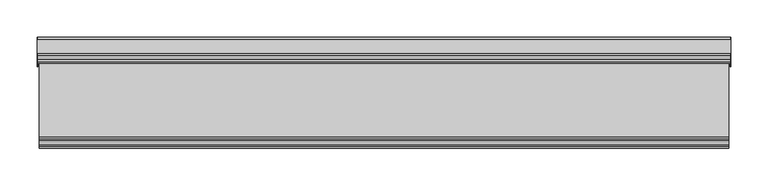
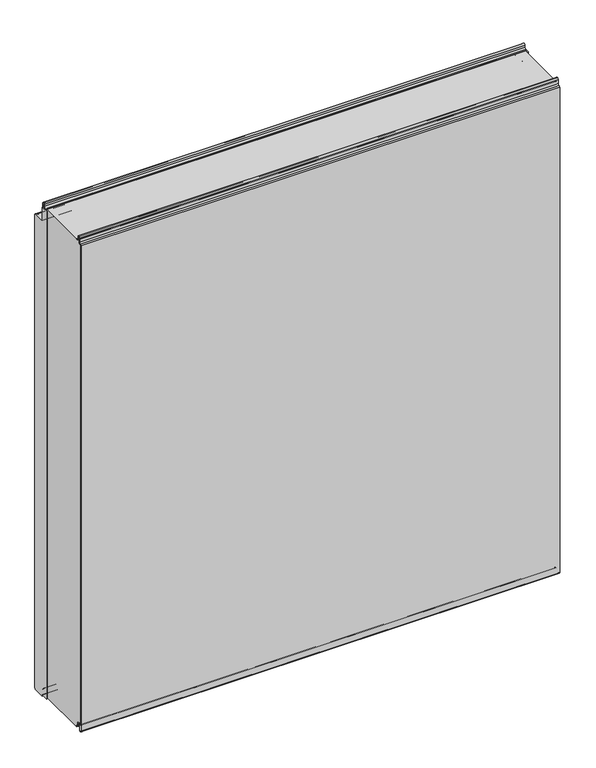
"""IFC4 building model written with IfcOpenShell, lengths in millimetres: plate geometry, Fronttop : Fronttop 150/1000."""

from ifc_helpers import new_model, si_unit, point, frame, frame_2d, origin, place, context, project, spatial, polyline, circle_curve, trimmed, segment, composite_curve, outline, extrude, source, transform, mapped, element, save
from ifc_brep_helpers import plane_surface, cylinder_surface, revolved_surface, advanced_brep


def plate_63f1b3db(model_context):
    return source(origin(), model_context, "Body", "SolidModel", [
        advanced_brep(
        [(-466.5, 124.0, 1008.0), (-466.5, 121.0, 1008.0), (-466.5, 121.0, 1004.0), (-466.5, 117.0, 1000.0), (-466.5, 115.0, 1000.0), (-466.5, 115.0, 1001.0), (-466.5, 117.0, 1001.0), (-466.5, 120.0, 1004.0), (-466.5, 120.0, 1008.0), (-466.5, 125.0, 1008.0), (-466.5, 125.0, 1000.0), (-466.5, 124.0, 1000.0), (466.5, 125.0, 1008.0), (466.5, 120.0, 1008.0), (466.5, 120.0, 1004.0), (466.5, 117.0, 1001.0), (466.5, 115.0, 1001.0), (466.5, 115.0, 1000.0), (466.5, 117.0, 1000.0), (466.5, 121.0, 1004.0), (466.5, 121.0, 1008.0), (466.5, 124.0, 1008.0), (466.5, 124.0, 1000.0), (466.5, 125.0, 1000.0), (-466.5, 117.0, 2.0), (466.5, 117.0, 2.0), (466.5, 115.0, 2.0), (-466.5, 115.0, 2.0), (-466.5, 119.0, 4.0), (466.5, 119.0, 4.0), (-466.5, 119.0, 8.0), (466.5, 119.0, 8.0), (-466.5, 126.0, 8.0), (466.5, 126.0, 8.0), (-466.5, 126.0, 0.0), (466.5, 126.0, 0.0), (-466.5, 129.0, -3.0), (466.5, 129.0, -3.0), (-466.5, 125.0, -3.0), (-467.5, 125.0, -3.0), (-467.5, 147.0, -3.0), (-466.5, 147.0, -3.0), (466.5, 147.0, -3.0), (467.5, 147.0, -3.0), (467.5, 125.0, -3.0), (466.5, 125.0, -3.0), (-466.5, 150.0, 0.0), (466.5, 150.0, 0.0), (-467.5, 150.0, 0.0), (-467.5, 150.0, 969.0), (-466.5, 150.0, 969.0), (466.5, 150.0, 969.0), (467.5, 150.0, 969.0), (467.5, 150.0, 0.0), (-466.5, 147.0, 972.0), (466.5, 147.0, 972.0), (-467.5, 147.0, 972.0), (-467.5, 128.0, 972.0), (-466.5, 128.0, 972.0), (466.5, 128.0, 972.0), (467.5, 128.0, 972.0), (467.5, 147.0, 972.0), (-466.5, 125.0, 975.0), (466.5, 125.0, 975.0), (-467.5, 125.0, 975.0), (-467.5, 125.0, 1000.0), (467.5, 125.0, 1000.0), (467.5, 125.0, 975.0), (-466.5, 124.0, 975.0), (466.5, 124.0, 975.0), (-466.5, 128.0, 971.0), (466.5, 128.0, 971.0), (-466.5, 147.0, 971.0), (466.5, 147.0, 971.0), (-466.5, 149.0, 969.0), (466.5, 149.0, 969.0), (-466.5, 149.0, 0.0), (466.5, 149.0, 0.0), (-466.5, 147.0, -2.0), (466.5, 147.0, -2.0), (-466.5, 129.0, -2.0), (466.5, 129.0, -2.0), (-466.5, 127.0, 0.0), (466.5, 127.0, 0.0), (-466.5, 127.0, 8.0), (466.5, 127.0, 8.0), (-466.5, 118.0, 8.0), (466.5, 118.0, 8.0), (-466.5, 118.0, 4.0), (466.5, 118.0, 4.0), (-466.5, 117.0, 3.0), (466.5, 117.0, 3.0), (-466.5, 115.0, 3.0), (466.5, 115.0, 3.0), (467.5, 110.0, 1000.0), (467.5, 110.0, 0.0), (467.5, 125.0, 0.0), (466.5, 125.0, 0.0), (466.5, 110.0, 0.0), (466.5, 110.0, 1000.0), (-467.5, 125.0, 0.0), (-467.5, 110.0, 0.0), (-467.5, 110.0, 1000.0), (-466.5, 110.0, 1000.0), (-466.5, 110.0, 0.0), (-466.5, 125.0, 0.0)],
        [
            (0, 1, circle_curve(frame((-466.5, 122.5, 1008.0), z_axis=(1.0, 0.0, 0.0), x_axis=(0.0, -1.0, 0.0)), 1.5)),
            (1, 2),
            (2, 3, circle_curve(frame((-466.5, 117.0, 1004.0), z_axis=(-1.0, 0.0, 0.0), x_axis=(0.0, -1.0, 0.0)), 4.0)),
            (3, 4),
            (4, 5),
            (5, 6),
            (6, 7, circle_curve(frame((-466.5, 117.0, 1004.0), z_axis=(1.0, 0.0, 0.0), x_axis=(0.0, -1.0, 0.0)), 3.0)),
            (7, 8),
            (8, 9, circle_curve(frame((-466.5, 122.5, 1008.0), z_axis=(-1.0, 0.0, 0.0), x_axis=(0.0, -1.0, 0.0)), 2.5)),
            (9, 10),
            (10, 11),
            (11, 0),
            (12, 13, circle_curve(frame((466.5, 122.5, 1008.0), z_axis=(1.0, 0.0, 0.0), x_axis=(0.0, -1.0, 0.0)), 2.5)),
            (13, 14),
            (14, 15, circle_curve(frame((466.5, 117.0, 1004.0), z_axis=(-1.0, 0.0, 0.0), x_axis=(0.0, -1.0, 0.0)), 3.0)),
            (15, 16),
            (16, 17),
            (17, 18),
            (18, 19, circle_curve(frame((466.5, 117.0, 1004.0), z_axis=(1.0, 0.0, 0.0), x_axis=(0.0, -1.0, 0.0)), 4.0)),
            (19, 20),
            (20, 21, circle_curve(frame((466.5, 122.5, 1008.0), z_axis=(-1.0, 0.0, 0.0), x_axis=(0.0, -1.0, 0.0)), 1.5)),
            (21, 22),
            (22, 23),
            (23, 12),
            (24, 25),
            (25, 26),
            (26, 27),
            (27, 24),
            (24, 28, circle_curve(frame((-466.5, 117.0, 4.0), z_axis=(1.0, 0.0, 0.0), x_axis=(0.0, -1.0, 0.0)), 2.0)),
            (28, 29),
            (29, 25, circle_curve(frame((466.5, 117.0, 4.0), z_axis=(-1.0, 0.0, 0.0), x_axis=(0.0, -1.0, 0.0)), 2.0)),
            (28, 30),
            (30, 31),
            (31, 29),
            (30, 32, circle_curve(frame((-466.5, 122.5, 8.0), z_axis=(-1.0, 0.0, 0.0), x_axis=(0.0, -1.0, 0.0)), 3.5)),
            (32, 33),
            (33, 31, circle_curve(frame((466.5, 122.5, 8.0), z_axis=(1.0, 0.0, 0.0), x_axis=(0.0, -1.0, 0.0)), 3.5)),
            (32, 34),
            (34, 35),
            (35, 33),
            (34, 36, circle_curve(frame((-466.5, 129.0, 0.0), z_axis=(1.0, 0.0, 0.0), x_axis=(0.0, -1.0, 0.0)), 3.0)),
            (36, 37),
            (37, 35, circle_curve(frame((466.5, 129.0, 0.0), z_axis=(-1.0, 0.0, 0.0), x_axis=(0.0, -1.0, 0.0)), 3.0)),
            (36, 38),
            (38, 39),
            (39, 40),
            (40, 41),
            (41, 42),
            (42, 43),
            (43, 44),
            (44, 45),
            (45, 37),
            (41, 46, circle_curve(frame((-466.5, 147.0, 0.0), z_axis=(1.0, 0.0, 0.0), x_axis=(0.0, -1.0, 0.0)), 3.0)),
            (46, 47),
            (47, 42, circle_curve(frame((466.5, 147.0, 0.0), z_axis=(-1.0, 0.0, 0.0), x_axis=(0.0, -1.0, 0.0)), 3.0)),
            (46, 48),
            (48, 49),
            (49, 50),
            (50, 51),
            (51, 52),
            (52, 53),
            (53, 47),
            (50, 54, circle_curve(frame((-466.5, 147.0, 969.0), z_axis=(1.0, 0.0, 0.0), x_axis=(0.0, -1.0, 0.0)), 3.0)),
            (54, 55),
            (55, 51, circle_curve(frame((466.5, 147.0, 969.0), z_axis=(-1.0, 0.0, 0.0), x_axis=(0.0, -1.0, 0.0)), 3.0)),
            (54, 56),
            (56, 57),
            (57, 58),
            (58, 59),
            (59, 60),
            (60, 61),
            (61, 55),
            (58, 62, circle_curve(frame((-466.5, 128.0, 975.0), z_axis=(-1.0, 0.0, 0.0), x_axis=(0.0, -1.0, 0.0)), 3.0)),
            (62, 63),
            (63, 59, circle_curve(frame((466.5, 128.0, 975.0), z_axis=(1.0, 0.0, 0.0), x_axis=(0.0, -1.0, 0.0)), 3.0)),
            (62, 64),
            (64, 65),
            (65, 10),
            (9, 12),
            (23, 66),
            (66, 67),
            (67, 63),
            (8, 13),
            (7, 14),
            (6, 15),
            (5, 16),
            (4, 17),
            (4, 3),
            (3, 18),
            (18, 17),
            (2, 19),
            (1, 20),
            (0, 21),
            (11, 68),
            (68, 69),
            (69, 22),
            (68, 70, circle_curve(frame((-466.5, 128.0, 975.0), z_axis=(1.0, 0.0, 0.0), x_axis=(0.0, -1.0, 0.0)), 4.0)),
            (70, 71),
            (71, 69, circle_curve(frame((466.5, 128.0, 975.0), z_axis=(-1.0, 0.0, 0.0), x_axis=(0.0, -1.0, 0.0)), 4.0)),
            (70, 72),
            (72, 73),
            (73, 71),
            (72, 74, circle_curve(frame((-466.5, 147.0, 969.0), z_axis=(-1.0, 0.0, 0.0), x_axis=(0.0, -1.0, 0.0)), 2.0)),
            (74, 75),
            (75, 73, circle_curve(frame((466.5, 147.0, 969.0), z_axis=(1.0, 0.0, 0.0), x_axis=(0.0, -1.0, 0.0)), 2.0)),
            (74, 76),
            (76, 77),
            (77, 75),
            (76, 78, circle_curve(frame((-466.5, 147.0, 0.0), z_axis=(-1.0, 0.0, 0.0), x_axis=(0.0, -1.0, 0.0)), 2.0)),
            (78, 79),
            (79, 77, circle_curve(frame((466.5, 147.0, 0.0), z_axis=(1.0, 0.0, 0.0), x_axis=(0.0, -1.0, 0.0)), 2.0)),
            (78, 80),
            (80, 81),
            (81, 79),
            (80, 82, circle_curve(frame((-466.5, 129.0, 0.0), z_axis=(-1.0, 0.0, 0.0), x_axis=(0.0, -1.0, 0.0)), 2.0)),
            (82, 83),
            (83, 81, circle_curve(frame((466.5, 129.0, 0.0), z_axis=(1.0, 0.0, 0.0), x_axis=(0.0, -1.0, 0.0)), 2.0)),
            (82, 84),
            (84, 85),
            (85, 83),
            (84, 86, circle_curve(frame((-466.5, 122.5, 8.0), z_axis=(1.0, 0.0, 0.0), x_axis=(0.0, -1.0, 0.0)), 4.5)),
            (86, 87),
            (87, 85, circle_curve(frame((466.5, 122.5, 8.0), z_axis=(-1.0, 0.0, 0.0), x_axis=(0.0, -1.0, 0.0)), 4.5)),
            (86, 88),
            (88, 89),
            (89, 87),
            (88, 90, circle_curve(frame((-466.5, 117.0, 4.0), z_axis=(-1.0, 0.0, 0.0), x_axis=(0.0, -1.0, 0.0)), 1.0)),
            (90, 91),
            (91, 89, circle_curve(frame((466.5, 117.0, 4.0), z_axis=(1.0, 0.0, 0.0), x_axis=(0.0, -1.0, 0.0)), 1.0)),
            (90, 92),
            (92, 93),
            (93, 91),
            (26, 93),
            (92, 27),
            (66, 94),
            (94, 95),
            (95, 96),
            (96, 44),
            (43, 53, circle_curve(frame((467.5, 147.0, 0.0), z_axis=(1.0, 0.0, 0.0), x_axis=(0.0, 1.0, 0.0)), 3.0)),
            (52, 61, circle_curve(frame((467.5, 147.0, 969.0), z_axis=(1.0, 0.0, 0.0), x_axis=(0.0, 1.0, 0.0)), 3.0)),
            (60, 67, circle_curve(frame((467.5, 128.0, 975.0), z_axis=(-1.0, 0.0, 0.0), x_axis=(0.0, 1.0, 0.0)), 3.0)),
            (45, 97),
            (97, 98),
            (98, 99),
            (99, 17),
            (18, 22),
            (99, 94),
            (98, 95),
            (97, 96),
            (64, 57, circle_curve(frame((-467.5, 128.0, 975.0), z_axis=(1.0, 0.0, 0.0), x_axis=(0.0, 1.0, 0.0)), 3.0)),
            (56, 49, circle_curve(frame((-467.5, 147.0, 969.0), z_axis=(-1.0, 0.0, 0.0), x_axis=(0.0, 1.0, 0.0)), 3.0)),
            (48, 40, circle_curve(frame((-467.5, 147.0, 0.0), z_axis=(-1.0, 0.0, 0.0), x_axis=(0.0, 1.0, 0.0)), 3.0)),
            (39, 100),
            (100, 101),
            (101, 102),
            (102, 65),
            (103, 104),
            (104, 105),
            (105, 38),
            (11, 3),
            (4, 103),
            (102, 103),
            (101, 104),
            (100, 105),
        ],
        [
            plane_surface(frame((-466.5, 0.0, 0.0), z_axis=(-1.0, 0.0, 0.0), x_axis=(0.0, 0.0, 1.0))),
            plane_surface(frame((466.5, 0.0, 0.0), z_axis=(1.0, 0.0, 0.0), x_axis=(0.0, 0.0, 1.0))),
            plane_surface(frame((-466.5, 117.0, 2.0), z_axis=(0.0, 0.0, -1.0), x_axis=(1.0, 0.0, 0.0))),
            cylinder_surface(frame((-466.5, 117.0, 4.0), z_axis=(-1.0, 0.0, 0.0), x_axis=(0.0, -1.0, 0.0)), 2.0),
            plane_surface(frame((-466.5, 119.0, 8.0), z_axis=(0.0, 1.0, 0.0), x_axis=(1.0, 0.0, 0.0))),
            revolved_surface(polyline([(466.5, 119.0, 8.0), (-466.5, 119.0, 8.0)]), (-466.5, 122.5, 8.0), (1.0, 0.0, 0.0)),
            plane_surface(frame((-466.5, 126.0, 0.0), z_axis=(0.0, -1.0, 0.0), x_axis=(1.0, 0.0, 0.0))),
            cylinder_surface(frame((-466.5, 129.0, 0.0), z_axis=(-1.0, 0.0, 0.0), x_axis=(0.0, -1.0, 0.0)), 3.0),
            plane_surface(frame((-466.5, 147.0, -3.0), z_axis=(0.0, 0.0, -1.0), x_axis=(1.0, 0.0, 0.0))),
            cylinder_surface(frame((-466.5, 147.0, 0.0), z_axis=(-1.0, 0.0, 0.0), x_axis=(0.0, -1.0, 0.0)), 3.0),
            plane_surface(frame((-466.5, 150.0, 969.0), z_axis=(0.0, 1.0, 0.0), x_axis=(1.0, 0.0, 0.0))),
            cylinder_surface(frame((-466.5, 147.0, 969.0), z_axis=(-1.0, 0.0, 0.0), x_axis=(0.0, -1.0, 0.0)), 3.0),
            plane_surface(frame((-466.5, 128.0, 972.0), z_axis=(0.0, 0.0, 1.0), x_axis=(1.0, 0.0, 0.0))),
            revolved_surface(polyline([(466.5, 125.0, 975.0), (-466.5, 125.0, 975.0)]), (-466.5, 128.0, 975.0), (1.0, 0.0, 0.0)),
            plane_surface(frame((-466.5, 125.0, 1008.0), z_axis=(0.0, 1.0, 0.0), x_axis=(1.0, 0.0, 0.0))),
            cylinder_surface(frame((-466.5, 122.5, 1008.0), z_axis=(-1.0, 0.0, 0.0), x_axis=(0.0, -1.0, 0.0)), 2.5),
            plane_surface(frame((-466.5, 120.0, 1004.0), z_axis=(0.0, -1.0, 0.0), x_axis=(1.0, 0.0, 0.0))),
            revolved_surface(polyline([(466.5, 114.0, 1004.0), (-466.5, 114.0, 1004.0)]), (-466.5, 117.0, 1004.0), (1.0, 0.0, 0.0)),
            plane_surface(frame((-466.5, 115.0, 1001.0), z_axis=(0.0, 0.0, 1.0), x_axis=(1.0, 0.0, 0.0))),
            plane_surface(frame((-466.5, 115.0, 1000.0), z_axis=(0.0, -1.0, 0.0), x_axis=(1.0, 0.0, 0.0))),
            plane_surface(frame((-466.5, 117.0, 1000.0), z_axis=(0.0, 0.0, -1.0), x_axis=(1.0, 0.0, 0.0))),
            cylinder_surface(frame((-466.5, 117.0, 1004.0), z_axis=(-1.0, 0.0, 0.0), x_axis=(0.0, -1.0, 0.0)), 4.0),
            plane_surface(frame((-466.5, 121.0, 1008.0), z_axis=(0.0, 1.0, 0.0), x_axis=(1.0, 0.0, 0.0))),
            revolved_surface(polyline([(466.5, 121.0, 1008.0), (-466.5, 121.0, 1008.0)]), (-466.5, 122.5, 1008.0), (1.0, 0.0, 0.0)),
            plane_surface(frame((-466.5, 124.0, 975.0), z_axis=(0.0, -1.0, 0.0), x_axis=(1.0, 0.0, 0.0))),
            cylinder_surface(frame((-466.5, 128.0, 975.0), z_axis=(-1.0, 0.0, 0.0), x_axis=(0.0, -1.0, 0.0)), 4.0),
            plane_surface(frame((-466.5, 147.0, 971.0), z_axis=(0.0, 0.0, -1.0), x_axis=(1.0, 0.0, 0.0))),
            revolved_surface(polyline([(466.5, 145.0, 969.0), (-466.5, 145.0, 969.0)]), (-466.5, 147.0, 969.0), (1.0, 0.0, 0.0)),
            plane_surface(frame((-466.5, 149.0, 0.0), z_axis=(0.0, -1.0, 0.0), x_axis=(1.0, 0.0, 0.0))),
            revolved_surface(polyline([(466.5, 145.0, 0.0), (-466.5, 145.0, 0.0)]), (-466.5, 147.0, 0.0), (1.0, 0.0, 0.0)),
            plane_surface(frame((-466.5, 129.0, -2.0), z_axis=(0.0, 0.0, 1.0), x_axis=(1.0, 0.0, 0.0))),
            revolved_surface(polyline([(466.5, 127.0, 0.0), (-466.5, 127.0, 0.0)]), (-466.5, 129.0, 0.0), (1.0, 0.0, 0.0)),
            plane_surface(frame((-466.5, 127.0, 8.0), z_axis=(0.0, 1.0, 0.0), x_axis=(1.0, 0.0, 0.0))),
            cylinder_surface(frame((-466.5, 122.5, 8.0), z_axis=(-1.0, 0.0, 0.0), x_axis=(0.0, -1.0, 0.0)), 4.5),
            plane_surface(frame((-466.5, 118.0, 4.0), z_axis=(0.0, -1.0, 0.0), x_axis=(1.0, 0.0, 0.0))),
            revolved_surface(polyline([(466.5, 116.0, 4.0), (-466.5, 116.0, 4.0)]), (-466.5, 117.0, 4.0), (1.0, 0.0, 0.0)),
            plane_surface(frame((-466.5, 115.0, 3.0), z_axis=(0.0, 0.0, 1.0), x_axis=(1.0, 0.0, 0.0))),
            plane_surface(frame((-466.5, 115.0, 2.0), z_axis=(0.0, -1.0, 0.0), x_axis=(1.0, 0.0, 0.0))),
            plane_surface(frame((467.5, 125.0, 1000.0), z_axis=(1.0, 0.0, 0.0), x_axis=(0.0, -1.0, 0.0))),
            plane_surface(frame((466.5, 125.0, 1000.0), z_axis=(-1.0, 0.0, 0.0), x_axis=(0.0, 1.0, 0.0))),
            plane_surface(frame((467.5, 125.0, 1000.0), z_axis=(0.0, 0.0, 1.0), x_axis=(-1.0, 0.0, 0.0))),
            plane_surface(frame((467.5, 110.0, 1000.0), z_axis=(0.0, -1.0, 0.0), x_axis=(-1.0, 0.0, 0.0))),
            plane_surface(frame((467.5, 110.0, 0.0), z_axis=(0.0, 0.0, -1.0), x_axis=(-1.0, 0.0, 0.0))),
            cylinder_surface(frame((466.5, 147.0, 0.0), z_axis=(1.0, 0.0, 0.0), x_axis=(0.0, 1.0, 0.0)), 3.0),
            cylinder_surface(frame((466.5, 147.0, 969.0), z_axis=(1.0, 0.0, 0.0), x_axis=(0.0, 1.0, 0.0)), 3.0),
            revolved_surface(polyline([(466.5, 131.0, 975.0), (467.5, 131.0, 975.0)]), (466.5, 128.0, 975.0), (-1.0, 0.0, 0.0)),
            plane_surface(frame((-467.5, 125.0, 1000.0), z_axis=(-1.0, 0.0, 0.0), x_axis=(0.0, 1.0, 0.0))),
            plane_surface(frame((-466.5, 125.0, 1000.0), z_axis=(1.0, 0.0, 0.0), x_axis=(0.0, -1.0, 0.0))),
            plane_surface(frame((-466.5, 125.0, 1000.0), z_axis=(0.0, 0.0, 1.0), x_axis=(-1.0, 0.0, 0.0))),
            plane_surface(frame((-466.5, 110.0, 1000.0), z_axis=(0.0, -1.0, 0.0), x_axis=(-1.0, 0.0, 0.0))),
            plane_surface(frame((-466.5, 110.0, 0.0), z_axis=(0.0, 0.0, -1.0), x_axis=(-1.0, 0.0, 0.0))),
            cylinder_surface(frame((-467.5, 147.0, 0.0), z_axis=(1.0, 0.0, 0.0), x_axis=(0.0, 1.0, 0.0)), 3.0),
            cylinder_surface(frame((-467.5, 147.0, 969.0), z_axis=(1.0, 0.0, 0.0), x_axis=(0.0, 1.0, 0.0)), 3.0),
            revolved_surface(polyline([(-467.5, 131.0, 975.0), (-466.5, 131.0, 975.0)]), (-467.5, 128.0, 975.0), (-1.0, 0.0, 0.0)),
            plane_surface(frame((467.5, 125.0, 0.0), z_axis=(0.0, -1.0, 0.0), x_axis=(-1.0, 0.0, 0.0))),
            plane_surface(frame((-466.5, 125.0, 0.0), z_axis=(0.0, -1.0, 0.0), x_axis=(-1.0, 0.0, 0.0))),
        ],
        [
            (0, [[1, 2, 3, 4, 5, 6, 7, 8, 9, 10, 11, 12]]),
            (1, [[13, 14, 15, 16, 17, 18, 19, 20, 21, 22, 23, 24]]),
            (2, [[25, 26, 27, 28]]),
            (3, [[-25, 29, 30, 31]]),
            (4, [[-30, 32, 33, 34]]),
            (5, [[-33, 35, 36, 37]]),
            (6, [[-36, 38, 39, 40]]),
            (7, [[-39, 41, 42, 43]]),
            (8, [[-42, 44, 45, 46, 47, 48, 49, 50, 51, 52]]),
            (9, [[-48, 53, 54, 55]]),
            (10, [[-54, 56, 57, 58, 59, 60, 61, 62]]),
            (11, [[-59, 63, 64, 65]]),
            (12, [[-64, 66, 67, 68, 69, 70, 71, 72]]),
            (13, [[-69, 73, 74, 75]]),
            (14, [[-74, 76, 77, 78, -10, 79, -24, 80, 81, 82]]),
            (15, [[-9, 83, -13, -79]]),
            (16, [[-8, 84, -14, -83]]),
            (17, [[-7, 85, -15, -84]]),
            (18, [[-6, 86, -16, -85]]),
            (19, [[-5, 87, -17, -86]]),
            (20, [[-87, 88, 89, 90]]),
            (21, [[-3, 91, -19, -89]]),
            (22, [[-2, 92, -20, -91]]),
            (23, [[-1, 93, -21, -92]]),
            (24, [[-93, -12, 94, 95, 96, -22]]),
            (25, [[-95, 97, 98, 99]]),
            (26, [[-98, 100, 101, 102]]),
            (27, [[-101, 103, 104, 105]]),
            (28, [[-104, 106, 107, 108]]),
            (29, [[-107, 109, 110, 111]]),
            (30, [[-110, 112, 113, 114]]),
            (31, [[-113, 115, 116, 117]]),
            (32, [[-116, 118, 119, 120]]),
            (33, [[-119, 121, 122, 123]]),
            (34, [[-122, 124, 125, 126]]),
            (35, [[-125, 127, 128, 129]]),
            (36, [[-128, 130, 131, 132]]),
            (37, [[-27, 133, -131, 134]]),
            (38, [[135, 136, 137, 138, -50, 139, -61, 140, -71, 141, -81]]),
            (39, [[142, 143, 144, 145, -90, 146, -96, -99, -102, -105, -108, -111, -114, -117, -120, -123, -126, -129, -132, -133, -26, -31, -34, -37, -40, -43, -52]]),
            (40, [[-135, -80, -23, -146, -18, -145, 147]]),
            (41, [[-136, -147, -144, 148]]),
            (42, [[-137, -148, -143, 149]]),
            (43, [[-139, -49, -55, -62]]),
            (44, [[-140, -60, -65, -72]]),
            (45, [[-141, -70, -75, -82]]),
            (46, [[-77, 150, -67, 151, -57, 152, -46, 153, 154, 155, 156]]),
            (47, [[157, 158, 159, -44, -41, -38, -35, -32, -29, -28, -134, -130, -127, -124, -121, -118, -115, -112, -109, -106, -103, -100, -97, -94, 160, -88, 161]]),
            (48, [[-156, 162, -161, -4, -160, -11, -78]]),
            (49, [[-155, 163, -157, -162]]),
            (50, [[-154, 164, -158, -163]]),
            (51, [[-152, -56, -53, -47]]),
            (52, [[-151, -66, -63, -58]]),
            (53, [[-150, -76, -73, -68]]),
            (54, [[-138, -149, -142, -51]]),
            (55, [[-153, -45, -159, -164]]),
        ],
    ),
        advanced_brep(
        [(-464.5, 13.0, 1001.0), (-464.5, 15.0, 1001.0), (-464.5, 15.0, 1000.0), (-464.5, 13.0, 1000.0), (-464.5, 9.0, 1004.0), (-464.5, 9.0, 1008.0), (-464.5, 6.0, 1008.0), (-464.5, 6.0, 999.5), (-464.5, 2.1134897, 996.0214069), (-464.5, 1.0, 995.0), (-464.5, 1.0, -0.5), (-464.5, 3.0, -0.5), (-464.5, 3.0, 8.0), (-464.5, 12.0, 8.0), (-464.5, 12.0, 4.0), (-464.5, 13.0, 3.0), (-464.5, 15.0, 3.0), (-464.5, 15.0, 2.0), (-464.5, 13.0, 2.0), (-464.5, 11.0, 4.0), (-464.5, 11.0, 8.0), (-464.5, 4.0, 8.0), (-464.5, 4.0, -0.5), (-464.5, 0.0, -0.5), (-464.5, 0.0, 995.0), (-464.5, 2.220863, 996.9877675), (-464.5, 5.0, 999.5), (-464.5, 5.0, 1008.0), (-464.5, 10.0, 1008.0), (-464.5, 10.0, 1004.0), (464.5, 13.0, 1001.0), (464.5, 10.0, 1004.0), (464.5, 10.0, 1008.0), (464.5, 5.0, 1008.0), (464.5, 5.0, 999.5), (464.5, 2.2239212, 997.0152907), (464.5, 0.0, 995.0), (464.5, 0.0, -0.5), (464.5, 4.0, -0.5), (464.5, 4.0, 8.0), (464.5, 11.0, 8.0), (464.5, 11.0, 4.0), (464.5, 13.0, 2.0), (464.5, 15.0, 2.0), (464.5, 15.0, 3.0), (464.5, 13.0, 3.0), (464.5, 12.0, 4.0), (464.5, 12.0, 8.0), (464.5, 3.0, 8.0), (464.5, 3.0, -0.5), (464.5, 1.0, -0.5), (464.5, 1.0, 995.0), (464.5, 2.1104315, 995.9938837), (464.5, 6.0, 999.5), (464.5, 6.0, 1008.0), (464.5, 9.0, 1008.0), (464.5, 9.0, 1004.0), (464.5, 13.0, 1000.0), (464.5, 15.0, 1000.0), (464.5, 15.0, 1001.0)],
        [
            (0, 1),
            (1, 2),
            (2, 3),
            (3, 4, circle_curve(frame((-464.5, 13.0, 1004.0), z_axis=(-1.0, 0.0, 0.0), x_axis=(0.0, -1.0, 0.0)), 4.0)),
            (4, 5),
            (5, 6, circle_curve(frame((-464.5, 7.5, 1008.0), z_axis=(1.0, 0.0, 0.0), x_axis=(0.0, -1.0, 0.0)), 1.5)),
            (6, 7),
            (7, 8, circle_curve(frame((-464.5, 2.5, 999.5), z_axis=(-1.0, 0.0, 0.0), x_axis=(0.0, -1.0, 0.0)), 3.5)),
            (8, 9, circle_curve(frame((-464.5, 2.0, 995.0), z_axis=(1.0, 0.0, 0.0), x_axis=(0.0, -1.0, 0.0)), 1.0)),
            (9, 10),
            (10, 11, circle_curve(frame((-464.5, 2.0, -0.5), z_axis=(1.0, 0.0, 0.0), x_axis=(0.0, -1.0, 0.0)), 1.0)),
            (11, 12),
            (12, 13, circle_curve(frame((-464.5, 7.5, 8.0), z_axis=(-1.0, 0.0, 0.0), x_axis=(0.0, -1.0, 0.0)), 4.5)),
            (13, 14),
            (14, 15, circle_curve(frame((-464.5, 13.0, 4.0), z_axis=(1.0, 0.0, 0.0), x_axis=(0.0, -1.0, 0.0)), 1.0)),
            (15, 16),
            (16, 17),
            (17, 18),
            (18, 19, circle_curve(frame((-464.5, 13.0, 4.0), z_axis=(-1.0, 0.0, 0.0), x_axis=(0.0, -1.0, 0.0)), 2.0)),
            (19, 20),
            (20, 21, circle_curve(frame((-464.5, 7.5, 8.0), z_axis=(1.0, 0.0, 0.0), x_axis=(0.0, -1.0, 0.0)), 3.5)),
            (21, 22),
            (22, 23, circle_curve(frame((-464.5, 2.0, -0.5), z_axis=(-1.0, 0.0, 0.0), x_axis=(0.0, -1.0, 0.0)), 2.0)),
            (23, 24),
            (24, 25, circle_curve(frame((-464.5, 2.0, 995.0), z_axis=(-1.0, 0.0, 0.0), x_axis=(0.0, -1.0, 0.0)), 2.0)),
            (25, 26, circle_curve(frame((-464.5, 2.5, 999.5), z_axis=(1.0, 0.0, 0.0), x_axis=(0.0, -1.0, 0.0)), 2.5)),
            (26, 27),
            (27, 28, circle_curve(frame((-464.5, 7.5, 1008.0), z_axis=(-1.0, 0.0, 0.0), x_axis=(0.0, -1.0, 0.0)), 2.5)),
            (28, 29),
            (29, 0, circle_curve(frame((-464.5, 13.0, 1004.0), z_axis=(1.0, 0.0, 0.0), x_axis=(0.0, -1.0, 0.0)), 3.0)),
            (30, 31, circle_curve(frame((464.5, 13.0, 1004.0), z_axis=(-1.0, 0.0, 0.0), x_axis=(0.0, -1.0, 0.0)), 3.0)),
            (31, 32),
            (32, 33, circle_curve(frame((464.5, 7.5, 1008.0), z_axis=(1.0, 0.0, 0.0), x_axis=(0.0, -1.0, 0.0)), 2.5)),
            (33, 34),
            (34, 35, circle_curve(frame((464.5, 2.5, 999.5), z_axis=(-1.0, 0.0, 0.0), x_axis=(0.0, -1.0, 0.0)), 2.5)),
            (35, 36, circle_curve(frame((464.5, 2.0, 995.0), z_axis=(1.0, 0.0, 0.0), x_axis=(0.0, -1.0, 0.0)), 2.0)),
            (36, 37),
            (37, 38, circle_curve(frame((464.5, 2.0, -0.5), z_axis=(1.0, 0.0, 0.0), x_axis=(0.0, -1.0, 0.0)), 2.0)),
            (38, 39),
            (39, 40, circle_curve(frame((464.5, 7.5, 8.0), z_axis=(-1.0, 0.0, 0.0), x_axis=(0.0, -1.0, 0.0)), 3.5)),
            (40, 41),
            (41, 42, circle_curve(frame((464.5, 13.0, 4.0), z_axis=(1.0, 0.0, 0.0), x_axis=(0.0, -1.0, 0.0)), 2.0)),
            (42, 43),
            (43, 44),
            (44, 45),
            (45, 46, circle_curve(frame((464.5, 13.0, 4.0), z_axis=(-1.0, 0.0, 0.0), x_axis=(0.0, -1.0, 0.0)), 1.0)),
            (46, 47),
            (47, 48, circle_curve(frame((464.5, 7.5, 8.0), z_axis=(1.0, 0.0, 0.0), x_axis=(0.0, -1.0, 0.0)), 4.5)),
            (48, 49),
            (49, 50, circle_curve(frame((464.5, 2.0, -0.5), z_axis=(-1.0, 0.0, 0.0), x_axis=(0.0, -1.0, 0.0)), 1.0)),
            (50, 51),
            (51, 52, circle_curve(frame((464.5, 2.0, 995.0), z_axis=(-1.0, 0.0, 0.0), x_axis=(0.0, -1.0, 0.0)), 1.0)),
            (52, 53, circle_curve(frame((464.5, 2.5, 999.5), z_axis=(1.0, 0.0, 0.0), x_axis=(0.0, -1.0, 0.0)), 3.5)),
            (53, 54),
            (54, 55, circle_curve(frame((464.5, 7.5, 1008.0), z_axis=(-1.0, 0.0, 0.0), x_axis=(0.0, -1.0, 0.0)), 1.5)),
            (55, 56),
            (56, 57, circle_curve(frame((464.5, 13.0, 1004.0), z_axis=(1.0, 0.0, 0.0), x_axis=(0.0, -1.0, 0.0)), 4.0)),
            (57, 58),
            (58, 59),
            (59, 30),
            (0, 30),
            (59, 1),
            (58, 2),
            (57, 3),
            (56, 4),
            (55, 5),
            (54, 6),
            (53, 7),
            (52, 8),
            (51, 9),
            (50, 10),
            (49, 11),
            (48, 12),
            (47, 13),
            (46, 14),
            (45, 15),
            (44, 16),
            (43, 17),
            (42, 18),
            (41, 19),
            (40, 20),
            (39, 21),
            (38, 22),
            (37, 23),
            (36, 24),
            (35, 25),
            (34, 26),
            (33, 27),
            (32, 28),
            (31, 29),
        ],
        [
            plane_surface(frame((-464.5, 0.0, 0.0), z_axis=(-1.0, 0.0, 0.0), x_axis=(0.0, 0.0, 1.0))),
            plane_surface(frame((464.5, 0.0, 0.0), z_axis=(1.0, 0.0, 0.0), x_axis=(0.0, 0.0, 1.0))),
            plane_surface(frame((-464.5, 13.0, 1001.0), z_axis=(0.0, 0.0, 1.0), x_axis=(1.0, 0.0, 0.0))),
            plane_surface(frame((-464.5, 15.0, 1001.0), z_axis=(0.0, 1.0, 0.0), x_axis=(1.0, 0.0, 0.0))),
            plane_surface(frame((-464.5, 15.0, 1000.0), z_axis=(0.0, 0.0, -1.0), x_axis=(1.0, 0.0, 0.0))),
            cylinder_surface(frame((-464.5, 13.0, 1004.0), z_axis=(-1.0, 0.0, 0.0), x_axis=(0.0, -1.0, 0.0)), 4.0),
            plane_surface(frame((-464.5, 9.0, 1004.0), z_axis=(0.0, -1.0, 0.0), x_axis=(1.0, 0.0, 0.0))),
            revolved_surface(polyline([(464.5, 6.0, 1008.0), (-464.5, 6.0, 1008.0)]), (-464.5, 7.5, 1008.0), (1.0, 0.0, 0.0)),
            plane_surface(frame((-464.5, 6.0, 1008.0), z_axis=(0.0, 1.0, 0.0), x_axis=(1.0, 0.0, 0.0))),
            cylinder_surface(frame((-464.5, 2.5, 999.5), z_axis=(-1.0, 0.0, 0.0), x_axis=(0.0, -1.0, 0.0)), 3.5),
            revolved_surface(polyline([(464.5, 1.0, 995.0), (-464.5, 1.0, 995.0)]), (-464.5, 2.0, 995.0), (1.0, 0.0, 0.0)),
            plane_surface(frame((-464.5, 1.0, 995.0), z_axis=(0.0, 1.0, 0.0), x_axis=(1.0, 0.0, 0.0))),
            revolved_surface(polyline([(464.5, 1.0, -0.5), (-464.5, 1.0, -0.5)]), (-464.5, 2.0, -0.5), (1.0, 0.0, 0.0)),
            plane_surface(frame((-464.5, 3.0, -0.5), z_axis=(0.0, -1.0, 0.0), x_axis=(1.0, 0.0, 0.0))),
            cylinder_surface(frame((-464.5, 7.5, 8.0), z_axis=(-1.0, 0.0, 0.0), x_axis=(0.0, -1.0, 0.0)), 4.5),
            plane_surface(frame((-464.5, 12.0, 8.0), z_axis=(0.0, 1.0, 0.0), x_axis=(1.0, 0.0, 0.0))),
            revolved_surface(polyline([(464.5, 12.0, 4.0), (-464.5, 12.0, 4.0)]), (-464.5, 13.0, 4.0), (1.0, 0.0, 0.0)),
            plane_surface(frame((-464.5, 13.0, 3.0), z_axis=(0.0, 0.0, 1.0), x_axis=(1.0, 0.0, 0.0))),
            plane_surface(frame((-464.5, 15.0, 3.0), z_axis=(0.0, 1.0, 0.0), x_axis=(1.0, 0.0, 0.0))),
            plane_surface(frame((-464.5, 15.0, 2.0), z_axis=(0.0, 0.0, -1.0), x_axis=(1.0, 0.0, 0.0))),
            cylinder_surface(frame((-464.5, 13.0, 4.0), z_axis=(-1.0, 0.0, 0.0), x_axis=(0.0, -1.0, 0.0)), 2.0),
            plane_surface(frame((-464.5, 11.0, 4.0), z_axis=(0.0, -1.0, 0.0), x_axis=(1.0, 0.0, 0.0))),
            revolved_surface(polyline([(464.5, 4.0, 8.0), (-464.5, 4.0, 8.0)]), (-464.5, 7.5, 8.0), (1.0, 0.0, 0.0)),
            plane_surface(frame((-464.5, 4.0, 8.0), z_axis=(0.0, 1.0, 0.0), x_axis=(1.0, 0.0, 0.0))),
            cylinder_surface(frame((-464.5, 2.0, -0.5), z_axis=(-1.0, 0.0, 0.0), x_axis=(0.0, -1.0, 0.0)), 2.0),
            plane_surface(frame((-464.5, 0.0, -0.5), z_axis=(0.0, -1.0, 0.0), x_axis=(1.0, 0.0, 0.0))),
            cylinder_surface(frame((-464.5, 2.0, 995.0), z_axis=(-1.0, 0.0, 0.0), x_axis=(0.0, -1.0, 0.0)), 2.0),
            revolved_surface(polyline([(464.5, 0.0, 999.5), (-464.5, 0.0, 999.5)]), (-464.5, 2.5, 999.5), (1.0, 0.0, 0.0)),
            plane_surface(frame((-464.5, 5.0, 999.5), z_axis=(0.0, -1.0, 0.0), x_axis=(1.0, 0.0, 0.0))),
            cylinder_surface(frame((-464.5, 7.5, 1008.0), z_axis=(-1.0, 0.0, 0.0), x_axis=(0.0, -1.0, 0.0)), 2.5),
            plane_surface(frame((-464.5, 10.0, 1008.0), z_axis=(0.0, 1.0, 0.0), x_axis=(1.0, 0.0, 0.0))),
            revolved_surface(polyline([(464.5, 10.0, 1004.0), (-464.5, 10.0, 1004.0)]), (-464.5, 13.0, 1004.0), (1.0, 0.0, 0.0)),
        ],
        [
            (0, [[1, 2, 3, 4, 5, 6, 7, 8, 9, 10, 11, 12, 13, 14, 15, 16, 17, 18, 19, 20, 21, 22, 23, 24, 25, 26, 27, 28, 29, 30]]),
            (1, [[31, 32, 33, 34, 35, 36, 37, 38, 39, 40, 41, 42, 43, 44, 45, 46, 47, 48, 49, 50, 51, 52, 53, 54, 55, 56, 57, 58, 59, 60]]),
            (2, [[-1, 61, -60, 62]]),
            (3, [[-2, -62, -59, 63]]),
            (4, [[-3, -63, -58, 64]]),
            (5, [[-4, -64, -57, 65]]),
            (6, [[-5, -65, -56, 66]]),
            (7, [[-6, -66, -55, 67]]),
            (8, [[-7, -67, -54, 68]]),
            (9, [[-8, -68, -53, 69]]),
            (10, [[-9, -69, -52, 70]]),
            (11, [[-10, -70, -51, 71]]),
            (12, [[-11, -71, -50, 72]]),
            (13, [[-12, -72, -49, 73]]),
            (14, [[-13, -73, -48, 74]]),
            (15, [[-14, -74, -47, 75]]),
            (16, [[-15, -75, -46, 76]]),
            (17, [[-16, -76, -45, 77]]),
            (18, [[-17, -77, -44, 78]]),
            (19, [[-18, -78, -43, 79]]),
            (20, [[-19, -79, -42, 80]]),
            (21, [[-20, -80, -41, 81]]),
            (22, [[-21, -81, -40, 82]]),
            (23, [[-22, -82, -39, 83]]),
            (24, [[-23, -83, -38, 84]]),
            (25, [[-24, -84, -37, 85]]),
            (26, [[-25, -85, -36, 86]]),
            (27, [[-26, -86, -35, 87]]),
            (28, [[-27, -87, -34, 88]]),
            (29, [[-28, -88, -33, 89]]),
            (30, [[-29, -89, -32, 90]]),
            (31, [[-30, -90, -31, -61]]),
        ],
    ),
        extrude(outline(composite_curve([segment(polyline([(15.0, 3.0), (13.0, 3.0)]), True, "CONTINUOUS"), segment(trimmed(circle_curve(frame_2d((13.0, 4.0)), 1.0), [point((13.0, 3.0))], [point((12.0, 4.0))], False, "CARTESIAN"), True, "CONTINUOUS"), segment(polyline([(12.0, 4.0), (12.0, 8.0)]), True, "CONTINUOUS"), segment(trimmed(circle_curve(frame_2d((7.5, 8.0)), 4.5), [point((12.0, 8.0))], [point((3.0, 8.0))], True, "CARTESIAN"), True, "CONTINUOUS"), segment(polyline([(3.0, 8.0), (3.0, -0.5)]), True, "CONTINUOUS"), segment(trimmed(circle_curve(frame_2d((2.0, -0.5)), 1.0), [point((3.0, -0.5))], [point((1.0, -0.5))], False, "CARTESIAN"), True, "CONTINUOUS"), segment(polyline([(1.0, -0.5), (1.0, 995.0278643)]), True, "CONTINUOUS"), segment(trimmed(circle_curve(frame_2d((2.0, 995.0278643)), 1.0), [point((1.0, 995.0278643))], [point((2.1111111, 996.0216723))], False, "CARTESIAN"), True, "CONTINUOUS"), segment(trimmed(circle_curve(frame_2d((2.5, 999.5)), 3.5), [point((2.1111111, 996.0216723))], [point((6.0, 999.5))], True, "CARTESIAN"), True, "CONTINUOUS"), segment(polyline([(6.0, 999.5), (6.0, 1008.0)]), True, "CONTINUOUS"), segment(trimmed(circle_curve(frame_2d((7.5, 1008.0)), 1.5), [point((6.0, 1008.0))], [point((9.0, 1008.0))], False, "CARTESIAN"), True, "CONTINUOUS"), segment(polyline([(9.0, 1008.0), (9.0, 1004.0)]), True, "CONTINUOUS"), segment(trimmed(circle_curve(frame_2d((13.0, 1004.0)), 4.0), [point((9.0, 1004.0))], [point((13.0, 1000.0))], True, "CARTESIAN"), True, "CONTINUOUS"), segment(polyline([(13.0, 1000.0), (117.0, 1000.0)]), True, "CONTINUOUS"), segment(trimmed(circle_curve(frame_2d((117.0, 1004.0)), 4.0), [point((117.0, 1000.0))], [point((121.0, 1004.0))], True, "CARTESIAN"), True, "CONTINUOUS"), segment(polyline([(121.0, 1004.0), (121.0, 1008.0)]), True, "CONTINUOUS"), segment(trimmed(circle_curve(frame_2d((122.5, 1008.0)), 1.5), [point((121.0, 1008.0))], [point((124.0, 1008.0))], False, "CARTESIAN"), True, "CONTINUOUS"), segment(polyline([(124.0, 1008.0), (124.0, 975.0)]), True, "CONTINUOUS"), segment(trimmed(circle_curve(frame_2d((128.0, 975.0)), 4.0), [point((124.0, 975.0))], [point((128.0, 971.0))], True, "CARTESIAN"), True, "CONTINUOUS"), segment(polyline([(128.0, 971.0), (147.0, 971.0)]), True, "CONTINUOUS"), segment(trimmed(circle_curve(frame_2d((147.0, 969.0)), 2.0), [point((147.0, 971.0))], [point((149.0, 969.0))], False, "CARTESIAN"), True, "CONTINUOUS"), segment(polyline([(149.0, 969.0), (149.0, 0.0)]), True, "CONTINUOUS"), segment(trimmed(circle_curve(frame_2d((147.0, 0.0)), 2.0), [point((149.0, 0.0))], [point((147.0, -2.0))], False, "CARTESIAN"), True, "CONTINUOUS"), segment(polyline([(147.0, -2.0), (129.0, -2.0)]), True, "CONTINUOUS"), segment(trimmed(circle_curve(frame_2d((129.0, 0.0)), 2.0), [point((129.0, -2.0))], [point((127.0, 0.0))], False, "CARTESIAN"), True, "CONTINUOUS"), segment(polyline([(127.0, 0.0), (127.0, 8.0)]), True, "CONTINUOUS"), segment(trimmed(circle_curve(frame_2d((122.5, 8.0)), 4.5), [point((127.0, 8.0))], [point((118.0, 8.0))], True, "CARTESIAN"), True, "CONTINUOUS"), segment(polyline([(118.0, 8.0), (118.0, 4.0)]), True, "CONTINUOUS"), segment(trimmed(circle_curve(frame_2d((117.0, 4.0)), 1.0), [point((118.0, 4.0))], [point((117.0, 3.0))], False, "CARTESIAN"), True, "CONTINUOUS"), segment(polyline([(117.0, 3.0), (115.0, 3.0), (115.0, 0.0), (15.0, 0.0), (15.0, 3.0)]), True, "CONTINUOUS")], self_intersect=False)), frame((-464.5, 0.0, 0.0), z_axis=(1.0, 0.0, 0.0), x_axis=(0.0, 1.0, 0.0)), (0.0, 0.0, 1.0), 929.0),
    ])


if __name__ == "__main__":
    model = new_model("IFC4")
    model_context = context("Model", 3, world=origin())
    ifc_project = project(units=[si_unit("LENGTHUNIT", "METRE", prefix="MILLI")], contexts=[model_context])
    site = spatial("IfcSite", under=ifc_project)
    building = spatial("IfcBuilding", under=site)
    placement = place(None, origin())
    plate_shape = plate_63f1b3db(model_context)
    element("IfcPlate", 1, ObjectType="Fronttop : Fronttop 150/1000", at=placement, inside=building, context=model_context, shape_type="MappedRepresentation", body=[
        mapped(plate_shape, transform((0.0, 0.0, 0.0), x_axis=(1.0, 0.0, 0.0), y_axis=(0.0, 1.0, 0.0), z_axis=(0.0, 0.0, 1.0))),
    ])
    save(model, "model.ifc")
